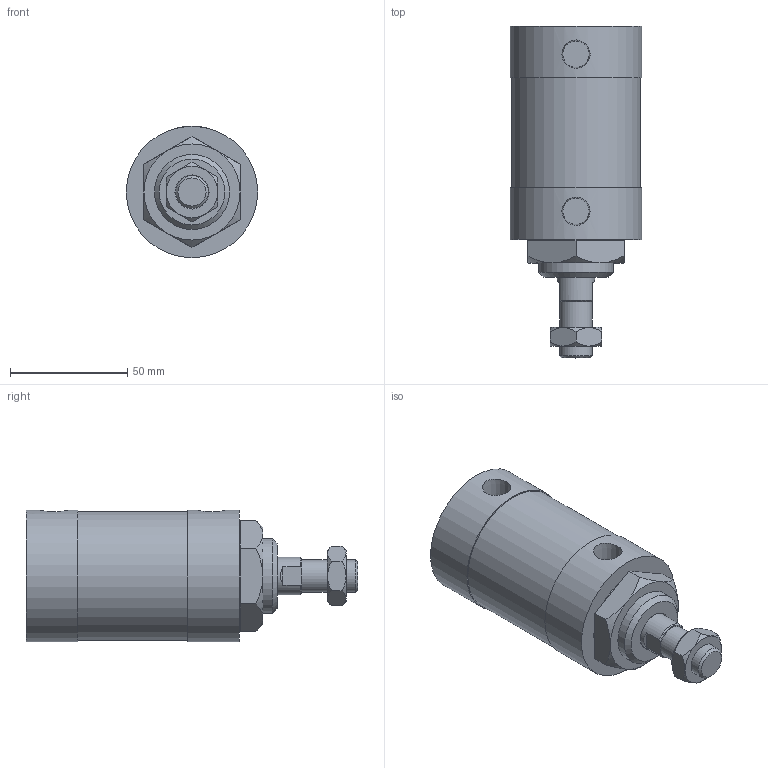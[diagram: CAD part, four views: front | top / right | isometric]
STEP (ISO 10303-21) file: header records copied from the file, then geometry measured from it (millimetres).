
FILE_DESCRIPTION(/* description */ ('Unknown'),/* implementation_level */ '2;1');
FILE_NAME(/* name */ 'WK50-FT',/* time_stamp */ '2026-07-17T16:35:34+08:00',/* author */ ('Unknown'),/* organization */ ('Unknown'),/* preprocessor_version */ 'ST-DEVELOPER v16.7',/* originating_system */ 'DEX',/* authorisation */ $);
FILE_SCHEMA (('CONFIG_CONTROL_DESIGN'));
Length unit declared in the file: millimetre
Products named in the file (7): WK50-FT; WK50_前; WK50_鋁; WK50_､ﾟｶbｬ｡_;m^XD}; M14-1.5P-8_螺; M32-2.0P-10_螺; WK50_FT
Assembly tree (6 placements, depth 2):
  WK50-FT
    WK50_前
    WK50_鋁
    WK50_､ﾟｶbｬ｡_;m^XD}
    M14-1.5P-8_螺
    M32-2.0P-10_螺
    WK50_FT
Bounding box: 56 x 141.5 x 56 mm (x, y, z)
Volume: 249698.1 mm3; surface area: 58829 mm2
Topology: 6 solids, 6 shells, 77 faces, 162 edges, 103 vertices
Faces by surface type: plane 42, cone 21, cylinder 14
Full cylindrical faces by diameter (mm): 12.5 x1, 14 x1, 16 x2, 30 x1, 32 x1, 41 x1, 49.5 x1, 50 x1, 52 x2, 55 x1, 56 x2
Entity records: 2598 total; most frequent: CARTESIAN_POINT 480, DIRECTION 318, ORIENTED_EDGE 244, AXIS2_PLACEMENT_3D 142, EDGE_CURVE 122, EDGE_LOOP 118, FACE_BOUND 118, VERTEX_POINT 90
